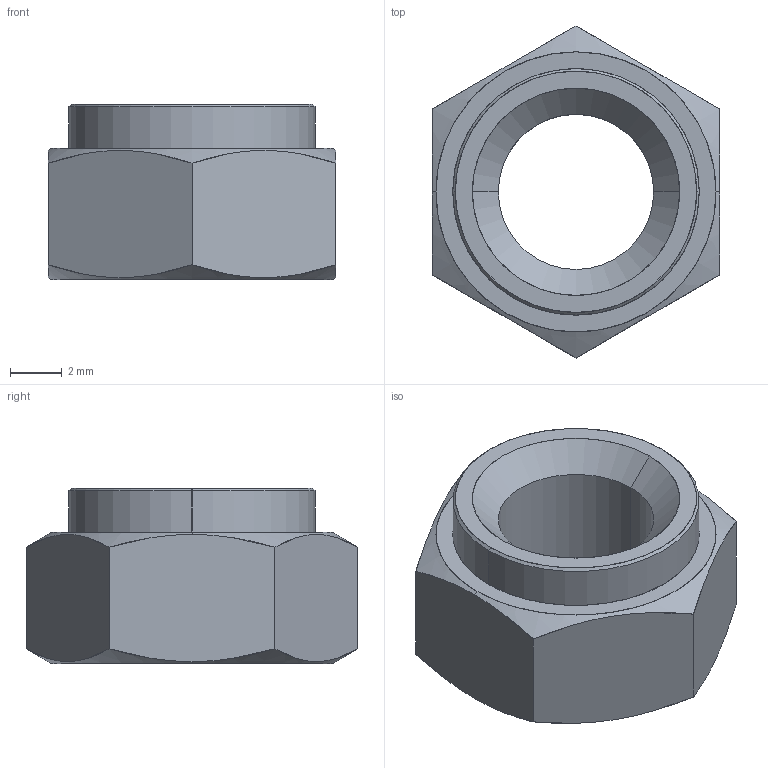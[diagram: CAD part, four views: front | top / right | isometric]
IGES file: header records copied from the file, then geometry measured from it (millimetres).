
Start section: SolidWorks IGES file using analytic representation for surfaces
Global section: file name: C:\Users\liam_\OneDrive\Desktop\Work\Mat Davis Pending 20181125\automotion\P SERIES\P0827.ZP_v2\P0827.ZP_v2_20181231_IGES\P0827.060-18G-ZP.igs; native system: SolidWorks 2017; preprocessor: SolidWorks 2017; author: liam_; date: 181231.110723; units: millimetre
Bounding box: 11.1 x 12.82 x 6.78 mm (x, y, z)
Surface area: 494.8 mm2 (no closed solid volume)
Topology: 0 solids, 0 shells, 23 faces, 400 edges, 400 vertices
Faces by surface type: revolution 14, bspline 9
